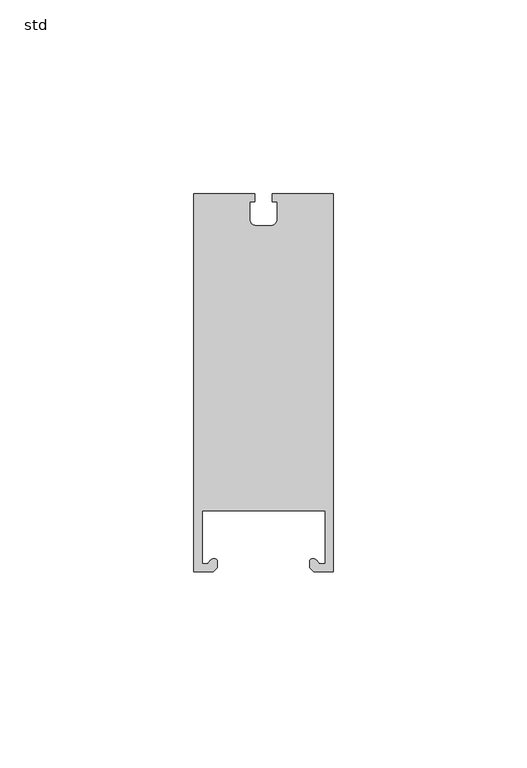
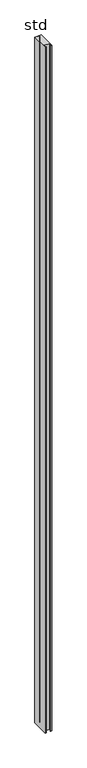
"""IFC4 building model written with IfcOpenShell, lengths in millimetres: column geometry, NLRS_21_COL_drager ST.0995_Storax : std."""

import ifcopenshell
import ifcopenshell.guid

model = None  # the IFC model being written
_history = None  # IfcOwnerHistory: only IFC2X3 demands one
_inside = {}  # id of a spatial element -> (the spatial element, [elements in it])
_under = {}  # id of a project, library or spatial element -> (it, [spatial elements below it])
_declared = {}  # id of a project -> (the project, [libraries it declares])
_typed = {}  # id of a type object -> (the type object, [elements of that type])
_made_of = {}  # id of a material, layer set ... -> (it, [elements and type objects made of it])


def new_model(schema):
    """Start an empty IFC model of exactly this schema.

    Asked for "IFC4X3", IfcOpenShell would pick the latest addendum, in which some entities
    have other attributes; the version numbers below select the first issue.
    IFC2X3 requires an IfcOwnerHistory on every rooted entity: one is made here for all.
    """
    global model, _history
    if schema == "IFC4X3":
        model = ifcopenshell.file(schema_version=(4, 3, 0, 0))
    else:
        model = ifcopenshell.file(schema=schema)
    _inside.clear()
    _under.clear()
    _declared.clear()
    _typed.clear()
    _made_of.clear()
    _history = None
    if model.schema == "IFC2X3":
        org = make("IfcOrganization", Name="unknown")
        user = make(
            "IfcPersonAndOrganization",
            ThePerson=make("IfcPerson", FamilyName="unknown"),
            TheOrganization=org,
        )
        app = make(
            "IfcApplication",
            ApplicationDeveloper=org,
            Version="unknown",
            ApplicationFullName="unknown",
            ApplicationIdentifier="unknown",
        )
        _history = make(
            "IfcOwnerHistory",
            OwningUser=user,
            OwningApplication=app,
            ChangeAction="ADDED",
            CreationDate=0,
        )
    return model


def make(cls, **values):
    """One entity of the class cls with the attributes given. An attribute that is None is left unset."""
    return model.create_entity(
        cls, **{name: value for name, value in values.items() if value is not None}
    )


def rooted(cls, **values):
    """An entity with a GlobalId (a new one), such as an element, a storey or a relation."""
    return make(cls, GlobalId=ifcopenshell.guid.new(), OwnerHistory=_history, **values)


def si_unit(unit_type, name, prefix=None):
    """IfcSIUnit, for example si_unit("LENGTHUNIT", "METRE", prefix="MILLI")."""
    return make("IfcSIUnit", UnitType=unit_type, Prefix=prefix, Name=name)


def assignment(units):
    """IfcUnitAssignment: the units of a project."""
    return None if units is None else make("IfcUnitAssignment", Units=units)


def point(xyz):
    """IfcCartesianPoint."""
    return None if xyz is None else make("IfcCartesianPoint", Coordinates=xyz)


def direction(xyz):
    """IfcDirection."""
    return None if xyz is None else make("IfcDirection", DirectionRatios=xyz)


def frame(location, z_axis=None, x_axis=None):
    """IfcAxis2Placement3D, a coordinate frame: its origin and axes. An axis left out is left unset."""
    return make(
        "IfcAxis2Placement3D",
        Location=point(location),
        Axis=direction(z_axis),
        RefDirection=direction(x_axis),
    )


def frame_2d(location, x_axis=None):
    """IfcAxis2Placement2D, a coordinate frame in the plane: its origin and x axis."""
    return make(
        "IfcAxis2Placement2D", Location=point(location), RefDirection=direction(x_axis)
    )


def origin():
    """The frame at (0, 0, 0) with its axes left unset."""
    return frame((0.0, 0.0, 0.0))


def origin_with_axes():
    """The frame at (0, 0, 0) with the z axis (0, 0, 1) and the x axis (1, 0, 0) written out."""
    return frame((0.0, 0.0, 0.0), z_axis=(0.0, 0.0, 1.0), x_axis=(1.0, 0.0, 0.0))


def place(relative_to, where):
    """IfcLocalPlacement: puts the frame where relative to a parent placement (None: the world)."""
    return make(
        "IfcLocalPlacement", PlacementRelTo=relative_to, RelativePlacement=where
    )


def context(
    kind, dimensions, precision=None, world=None, true_north=None, identifier=None
):
    """IfcGeometricRepresentationContext, for example the 3D "Model" context."""
    return make(
        "IfcGeometricRepresentationContext",
        ContextIdentifier=identifier,
        ContextType=kind,
        CoordinateSpaceDimension=dimensions,
        Precision=precision,
        WorldCoordinateSystem=world,
        TrueNorth=true_north,
    )


def project(units=None, contexts=None):
    """IfcProject with its units and contexts."""
    return rooted(
        "IfcProject",
        Name="project",
        RepresentationContexts=contexts,
        UnitsInContext=assignment(units),
    )


def spatial(cls, under=None, at=None, **own):
    """A site, building, storey or space (cls), placed at a placement, below another one or the project."""
    s = rooted(cls, ObjectPlacement=at, **own)
    if under is not None:
        _under.setdefault(under.id(), (under, []))[1].append(s)
    return s


def polyline(points):
    """IfcPolyline through the points."""
    return make("IfcPolyline", Points=[point(p) for p in points])


def circle_curve(where, radius):
    """IfcCircle in the frame where."""
    return make("IfcCircle", Position=where, Radius=radius)


def trimmed(basis, trim1, trim2, sense, master):
    """IfcTrimmedCurve: the piece of a basis curve between two trims."""
    return make(
        "IfcTrimmedCurve",
        BasisCurve=basis,
        Trim1=trim1,
        Trim2=trim2,
        SenseAgreement=sense,
        MasterRepresentation=master,
    )


def segment(curve, same_sense, transition):
    """IfcCompositeCurveSegment."""
    return make(
        "IfcCompositeCurveSegment",
        Transition=transition,
        SameSense=same_sense,
        ParentCurve=curve,
    )


def composite_curve(segments, self_intersect=None):
    """IfcCompositeCurve: segments joined end to end."""
    return make("IfcCompositeCurve", Segments=segments, SelfIntersect=self_intersect)


def outline(outer, holes=None, kind="AREA"):
    """IfcArbitraryClosedProfileDef: a profile drawn as a closed curve; with holes, ...WithVoids."""
    if holes is None:
        return make("IfcArbitraryClosedProfileDef", ProfileType=kind, OuterCurve=outer)
    return make(
        "IfcArbitraryProfileDefWithVoids",
        ProfileType=kind,
        OuterCurve=outer,
        InnerCurves=holes,
    )


def extrude(swept, where, along, depth):
    """IfcExtrudedAreaSolid: the profile swept, set in the frame where, extruded along a direction by depth."""
    return make(
        "IfcExtrudedAreaSolid",
        SweptArea=swept,
        Position=where,
        ExtrudedDirection=direction(along),
        Depth=depth,
    )


def shape(context_of_items, identifier, shape_type, items):
    """IfcShapeRepresentation: the items that make up one representation, for example the "Body"."""
    return make(
        "IfcShapeRepresentation",
        ContextOfItems=context_of_items,
        RepresentationIdentifier=identifier,
        RepresentationType=shape_type,
        Items=items,
    )


def source(mapping_origin, context_of_items, identifier, shape_type, items):
    """IfcRepresentationMap: a shape defined once, which mapped items show again and again."""
    return make(
        "IfcRepresentationMap",
        MappingOrigin=mapping_origin,
        MappedRepresentation=shape(context_of_items, identifier, shape_type, items),
    )


def transform(
    local_origin,
    x_axis=None,
    y_axis=None,
    z_axis=None,
    scale=None,
    scale2=None,
    scale3=None,
    uniform=True,
):
    """IfcCartesianTransformationOperator3D, or its non-uniform kind. x_axis, y_axis, z_axis: its Axis1, 2, 3."""
    if uniform:
        return make(
            "IfcCartesianTransformationOperator3D",
            Axis1=direction(x_axis),
            Axis2=direction(y_axis),
            LocalOrigin=point(local_origin),
            Scale=scale,
            Axis3=direction(z_axis),
        )
    return make(
        "IfcCartesianTransformationOperator3DnonUniform",
        Axis1=direction(x_axis),
        Axis2=direction(y_axis),
        LocalOrigin=point(local_origin),
        Scale=scale,
        Axis3=direction(z_axis),
        Scale2=scale2,
        Scale3=scale3,
    )


def mapped(mapping_source, mapping_target):
    """IfcMappedItem: shows the shape of a source again, moved by a transform."""
    return make(
        "IfcMappedItem", MappingSource=mapping_source, MappingTarget=mapping_target
    )


def made_of(thing, what):
    """Note that an element or type object is made of a material, layer set ...; save() writes the relation."""
    if what is not None:
        _made_of.setdefault(what.id(), (what, []))[1].append(thing)
    return thing


def element(
    cls,
    number,
    at=None,
    inside=None,
    cuts=None,
    type_object=None,
    material=None,
    context=None,
    identifier="Body",
    shape_type=None,
    held_by="IfcProductDefinitionShape",
    body=None,
    shapes=None,
    **own,
):
    """One element of the class cls, such as IfcWall. Its Tag is "e" and its number.

    at: its placement. inside: the storey or other place that contains it. cuts: it is an
    opening in that element (IfcRelVoidsElement). A single representation is given by context,
    identifier, shape_type and body (its items); several are given by shapes. held_by: the class
    of the entity that holds the representations. save() writes the other relations.
    """
    e = rooted(cls, Tag="e%d" % number, ObjectPlacement=at, **own)
    if body is not None:
        shapes = [shape(context, identifier, shape_type, body)]
    if shapes is not None:
        e.Representation = make(held_by, Representations=shapes)
    if inside is not None:
        _inside.setdefault(inside.id(), (inside, []))[1].append(e)
    if cuts is not None:
        rooted(
            "IfcRelVoidsElement", RelatingBuildingElement=cuts, RelatedOpeningElement=e
        )
    if type_object is not None:
        _typed.setdefault(type_object.id(), (type_object, []))[1].append(e)
    return made_of(e, material)


def aggregate(whole, parts):
    """IfcRelAggregates: a whole, such as a stair, and the parts it consists of."""
    return rooted("IfcRelAggregates", RelatingObject=whole, RelatedObjects=parts)


def save(model, path):
    """Write the relations noted so far, then the file.

    IfcRelAggregates (storeys below a building ...), IfcRelContainedInSpatialStructure (elements
    in a storey), IfcRelDefinesByType, IfcRelAssociatesMaterial and IfcRelDeclares: one each for
    every whole, place, type object, material and project.
    """
    for whole, parts in _under.values():
        aggregate(whole, parts)
    for where, things in _inside.values():
        rooted(
            "IfcRelContainedInSpatialStructure",
            RelatedElements=things,
            RelatingStructure=where,
        )
    for kind, things in _typed.values():
        rooted("IfcRelDefinesByType", RelatedObjects=things, RelatingType=kind)
    for what, things in _made_of.values():
        rooted("IfcRelAssociatesMaterial", RelatedObjects=things, RelatingMaterial=what)
    for by, libraries in _declared.values():
        rooted("IfcRelDeclares", RelatingContext=by, RelatedDefinitions=libraries)
    model.write(path)


def std_77a662f7(model_context):
    return source(origin(), model_context, "Body", "SweptSolid", [
        extrude(outline(composite_curve([segment(polyline([(-18.0, -98.5), (-18.0, -1.0), (-2.2489445, -1.0), (-2.2489445, -3.0843142), (-3.59041, -3.0843142), (-3.59041, -7.4667227)]), True, "CONTINUOUS"), segment(trimmed(circle_curve(frame_2d((-1.8285608, -7.4667227)), 1.7618492), [point((-3.59041, -7.4667227))], [point((-1.559877, -9.2079641))], True, "CARTESIAN"), True, "CONTINUOUS"), segment(polyline([(-1.559877, -9.2079641), (2.0972447, -9.2079641)]), True, "CONTINUOUS"), segment(trimmed(circle_curve(frame_2d((1.8285608, -7.4667227)), 1.7618492), [point((2.0972447, -9.2079641))], [point((3.59041, -7.4667227))], True, "CARTESIAN"), True, "CONTINUOUS"), segment(polyline([(3.59041, -7.4667227), (3.59041, -3.0843142), (2.2489445, -3.0843142), (2.2489445, -1.0), (18.0, -1.0), (18.0, -98.5), (13.0, -98.5), (11.8999059, -97.5769114), (11.8999059, -95.561549)]), True, "CONTINUOUS"), segment(trimmed(circle_curve(frame_2d((12.7950072, -96.3498072)), 1.1927101), [point((11.8999059, -95.561549))], [point((13.6901084, -95.561549))], False, "CARTESIAN"), True, "CONTINUOUS"), segment(polyline([(13.6901084, -95.561549), (14.3252443, -96.4686169), (16.0, -96.4686169), (16.0, -82.8621189), (-15.8636449, -82.8621189), (-15.8636449, -96.4686169), (-14.3252443, -96.4686169), (-13.6901084, -95.561549)]), True, "CONTINUOUS"), segment(trimmed(circle_curve(frame_2d((-12.7950072, -96.3498072)), 1.1927101), [point((-13.6901084, -95.561549))], [point((-11.8999059, -95.561549))], False, "CARTESIAN"), True, "CONTINUOUS"), segment(polyline([(-11.8999059, -95.561549), (-11.8999059, -97.5769114), (-13.0, -98.5), (-18.0, -98.5)]), True, "CONTINUOUS")], self_intersect=False)), origin_with_axes(), (0.0, 0.0, 1.0), 4000.0),
    ])


if __name__ == "__main__":
    model = new_model("IFC4")
    model_context = context("Model", 3, world=origin())
    ifc_project = project(units=[si_unit("LENGTHUNIT", "METRE", prefix="MILLI")], contexts=[model_context])
    site = spatial("IfcSite", under=ifc_project)
    building = spatial("IfcBuilding", under=site)
    placement = place(None, origin())
    std_shape = std_77a662f7(model_context)
    element("IfcColumn", 1, ObjectType="NLRS_21_COL_drager ST.0995_Storax : std", at=placement, inside=building, context=model_context, shape_type="MappedRepresentation", body=[
        mapped(std_shape, transform((0.0, 0.0, 0.0), x_axis=(1.0, 0.0, 0.0), y_axis=(0.0, 1.0, 0.0), z_axis=(0.0, 0.0, 1.0))),
    ])
    save(model, "model.ifc")
